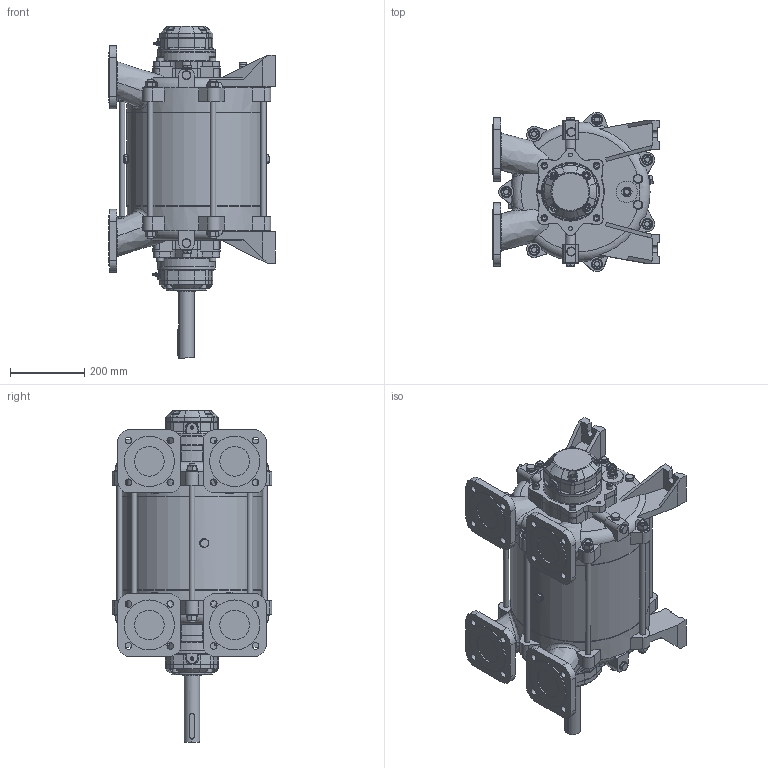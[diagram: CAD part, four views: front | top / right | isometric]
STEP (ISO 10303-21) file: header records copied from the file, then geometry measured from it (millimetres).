
FILE_DESCRIPTION(/* description */ (''),/* implementation_level */ '2;1');
FILE_NAME(/* name */ 'E:\WorkSpace\Designs\1700\1700027.stp',/* time_stamp */ '2022-04-26T13:20:18+02:00',/* author */ ('JJ'),/* organization */ (''),/* preprocessor_version */ 'ST-DEVELOPER v18.1',/* originating_system */ 'Autodesk Inventor 2022',/* authorisation */ '');
FILE_SCHEMA (('CONFIG_CONTROL_DESIGN'));
Products named in the file (1): 1700027
Bounding box: 450 x 429.89 x 894.9 mm (x, y, z)
Volume: 61093194 mm3; surface area: 1699255.4 mm2
Topology: 1 solids, 1 shells, 1853 faces, 4726 edges, 2985 vertices
Faces by surface type: plane 836, cylinder 535, cone 218, bspline 182, torus 80, sphere 2
Full cylindrical faces by diameter (mm): 8 x4, 10.11 x5, 14.6 x7, 15 x1, 16 x22, 18 x24, 19.847 x1, 19.984 x1, 20 x3, 21.8 x14, 23.8 x14, 30 x14, 31.8 x1, 34.93 x1, 42 x1, 49.8 x1, 50 x1, 55 x1, 58 x2, 80 x4, 115 x2, 135 x4, 154 x2, 156 x2, 359.8 x2, 375 x3
Entity records: 68881 total; most frequent: CARTESIAN_POINT 24140, ORIENTED_EDGE 9402, DIRECTION 8605, EDGE_CURVE 4701, AXIS2_PLACEMENT_3D 3352, VERTEX_POINT 2985, EDGE_LOOP 2046, LINE 1901
